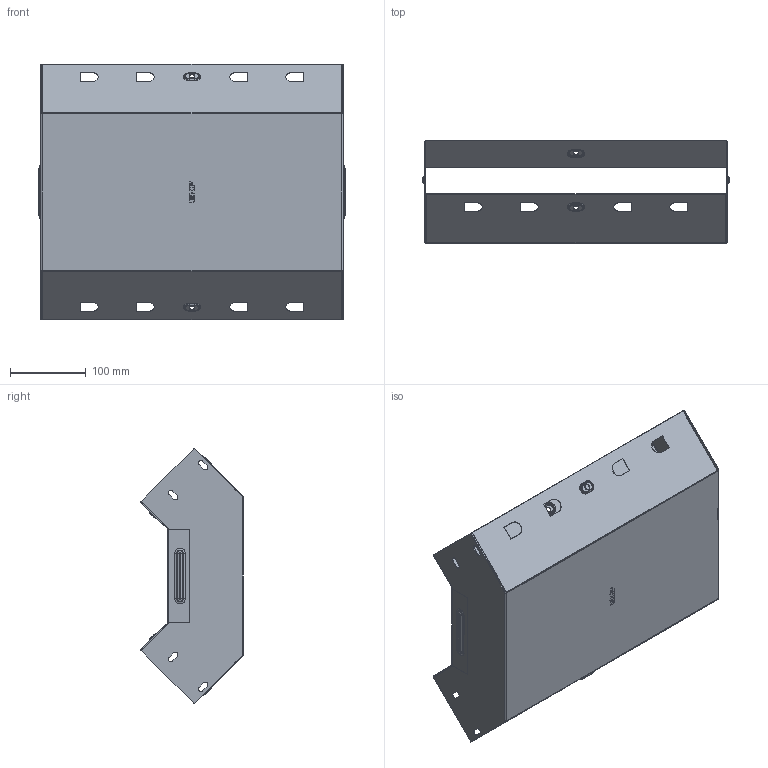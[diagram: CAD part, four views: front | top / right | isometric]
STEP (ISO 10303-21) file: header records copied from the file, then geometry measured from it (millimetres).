
FILE_DESCRIPTION (( 'STEP AP214' ), '1' );
FILE_NAME ('vi90100400_捘.STEP', '2019-06-10T09:20:36', ( '砐錪賧瘔蠈錪 Windows' ), ( '' ), 'SwSTEP 2.0', 'SolidWorks 2018', '' );
FILE_SCHEMA (( 'AUTOMOTIVE_DESIGN' ));
Length unit declared in the file: millimetre
Products named in the file (1): vi90100400_捘
Bounding box: 405.6 x 136.16 x 338.25 mm (x, y, z)
Volume: 247833.9 mm3; surface area: 623385.4 mm2
Topology: 2 solids, 2 shells, 468 faces, 1212 edges, 776 vertices
Faces by surface type: plane 254, cylinder 132, torus 64, bspline 18
Entity records: 15224 total; most frequent: CARTESIAN_POINT 3476, DIRECTION 2438, ORIENTED_EDGE 2424, EDGE_CURVE 1212, LINE 816, VECTOR 816, AXIS2_PLACEMENT_3D 811, VERTEX_POINT 776
